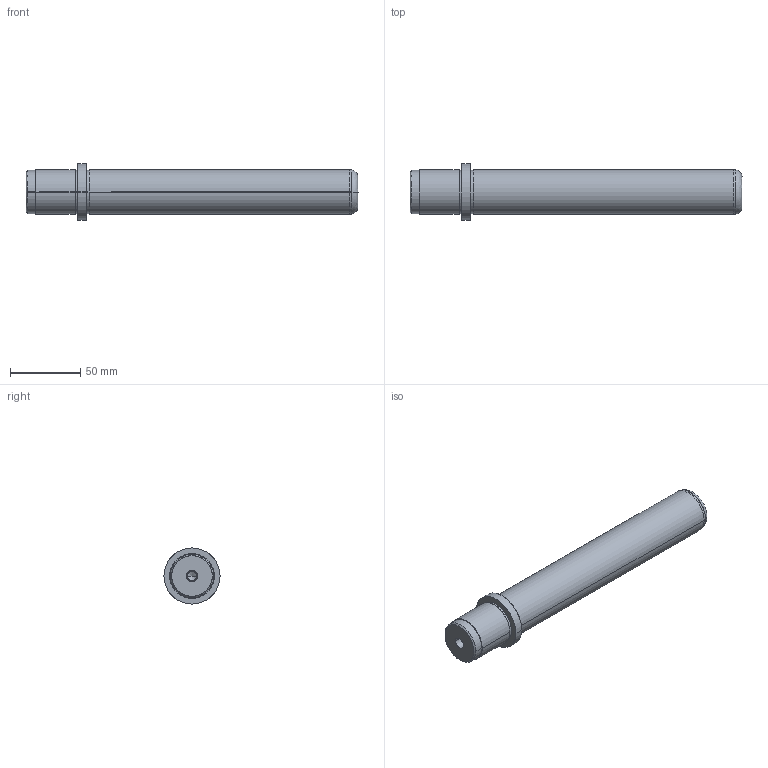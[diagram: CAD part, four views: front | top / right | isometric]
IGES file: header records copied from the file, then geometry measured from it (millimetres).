
Start section: SolidWorks IGES FILE using analytic representation for surfaces
Global section: file name: D:\zzzzz\Delta\D06\32\D06 - 32x200x37.IGS; native system: SolidWorks 2004 by SolidWorks Corporation; preprocessor: Version 5.3; author: Hkn; date: 080327.150857; units: millimetre
Bounding box: 237 x 40 x 40 mm (x, y, z)
Surface area: 27538 mm2 (no closed solid volume)
Topology: 0 solids, 0 shells, 39 faces, 1048 edges, 1044 vertices
Faces by surface type: revolution 28, bspline 11
